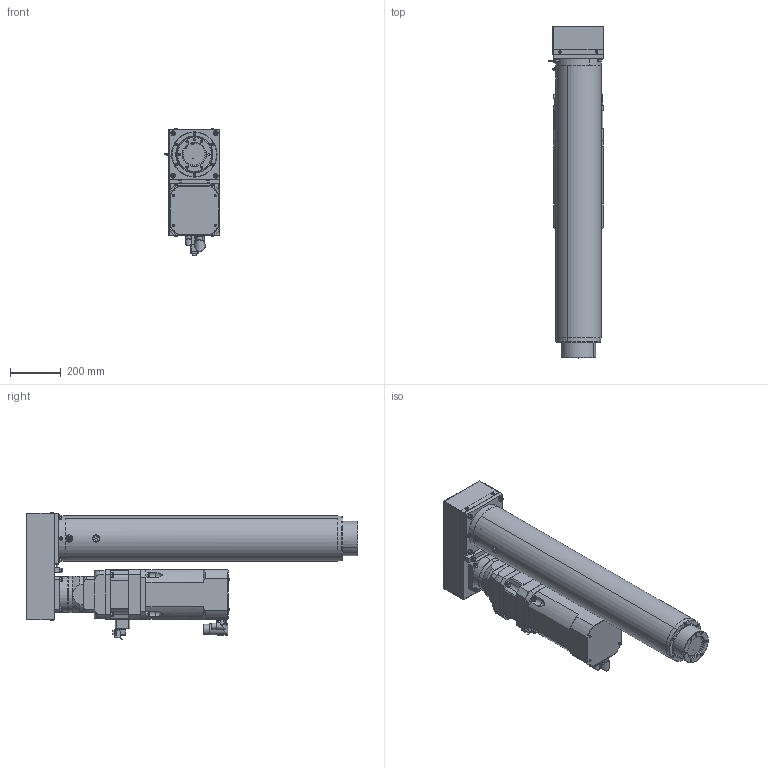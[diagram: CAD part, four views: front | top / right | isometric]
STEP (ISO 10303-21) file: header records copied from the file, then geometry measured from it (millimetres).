
FILE_DESCRIPTION (( 'STEP AP203' ), '1' );
FILE_NAME ('LN5P1000-075-020SG.STEP', '2019-01-31T13:02:12', ( '' ), ( '' ), 'SwSTEP 2.0', 'SolidWorks 2016', '' );
FILE_SCHEMA (( 'CONFIG_CONTROL_DESIGN' ));
Length unit declared in the file: millimetre
Products named in the file (1): LN5P1000-075-020SG
Bounding box: 218.14 x 1303.5 x 502.14 mm (x, y, z)
Volume: 42368592.2 mm3; surface area: 3614809.3 mm2
Topology: 49 solids, 49 shells, 1753 faces, 4120 edges, 2481 vertices
Faces by surface type: plane 720, cylinder 634, cone 269, torus 98, bspline 30, sphere 2
Entity records: 51508 total; most frequent: CARTESIAN_POINT 10938, DIRECTION 8972, ORIENTED_EDGE 7916, EDGE_CURVE 3958, AXIS2_PLACEMENT_3D 3455, VERTEX_POINT 2481, EDGE_LOOP 2065, LINE 2062
